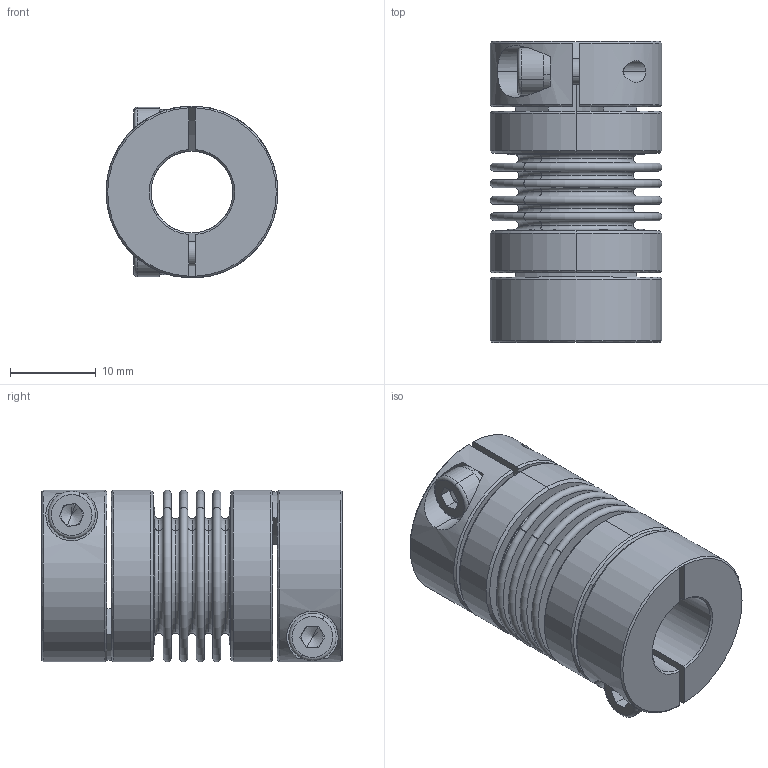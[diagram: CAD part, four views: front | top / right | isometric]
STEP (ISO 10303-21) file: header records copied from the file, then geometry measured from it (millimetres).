
FILE_DESCRIPTION (( 'STEP AP203' ), '1' );
FILE_NAME ('LB-B-D20L34-9.525-10.STEP', '2021-11-04T01:47:05', ( '' ), ( '' ), 'SwSTEP 2.0', 'SolidWorks 2018', '' );
FILE_SCHEMA (( 'CONFIG_CONTROL_DESIGN' ));
Length unit declared in the file: millimetre
Products named in the file (2): 零件4^LB-B-D20L34 波纹管联轴器-组装体; LB-B-D20L34-9.525-10
Assembly tree (1 placements, depth 2):
  LB-B-D20L34-9.525-10
    零件4^LB-B-D20L34 波纹管联轴器-组装体
Bounding box: 20 x 35 x 20 mm (x, y, z)
Volume: 5190.6 mm3; surface area: 9377 mm2
Topology: 1 solids, 1 shells, 246 faces, 566 edges, 350 vertices
Faces by surface type: plane 84, torus 68, cylinder 60, cone 34
Entity records: 7446 total; most frequent: CARTESIAN_POINT 1462, DIRECTION 1370, ORIENTED_EDGE 1124, AXIS2_PLACEMENT_3D 602, EDGE_CURVE 562, CIRCLE 352, VERTEX_POINT 350, EDGE_LOOP 288
